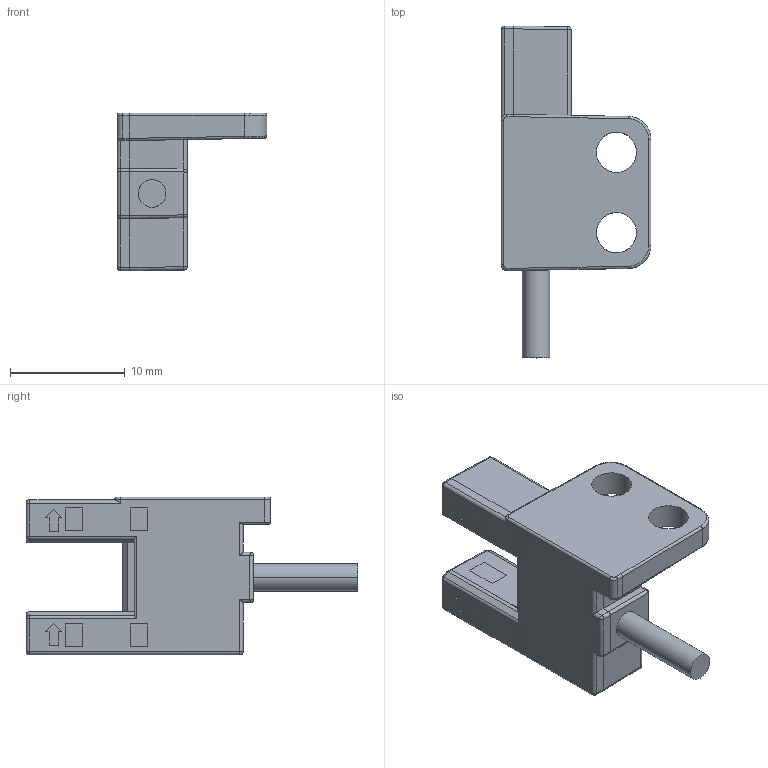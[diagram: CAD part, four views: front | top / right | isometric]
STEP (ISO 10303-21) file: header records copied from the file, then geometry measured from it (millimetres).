
FILE_DESCRIPTION((''),'2;1');
FILE_NAME('011_F45_ASM_HSG_ASM','2024-05-30T10:06:09',('PC'),(''),'CREO PARAMETRIC BY PTC INC, 2020033','CREO PARAMETRIC BY PTC INC, 2020033','');
FILE_SCHEMA(('CONFIG_CONTROL_DESIGN','SHAPE_APPEARANCE_LAYERS_GROUPS'));
Length unit declared in the file: millimetre
Products named in the file (4): 011F_F45_CASE; 012_T45_INSIDE; 013_WIRE; 011_F45_ASM_HSG_ASM
Assembly tree (3 placements, depth 2):
  011_F45_ASM_HSG_ASM
    011F_F45_CASE
    012_T45_INSIDE
    013_WIRE
Bounding box: 13.05 x 28.9 x 13.75 mm (x, y, z)
Volume: 1332.9 mm3; surface area: 2532.7 mm2
Topology: 9 solids, 9 shells, 594 faces, 1612 edges, 1032 vertices
Faces by surface type: plane 380, cylinder 161, bspline 43, torus 4, cone 4, sphere 2
Entity records: 27479 total; most frequent: CARTESIAN_POINT 5660, ORIENTED_EDGE 3224, DIRECTION 2889, PRESENTATION_STYLE_ASSIGNMENT 1885, STYLED_ITEM 1877, CURVE_STYLE 1612, EDGE_CURVE 1612, VECTOR 1201
